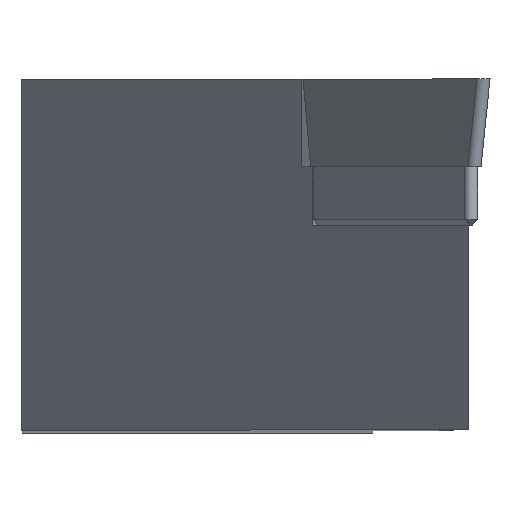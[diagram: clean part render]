
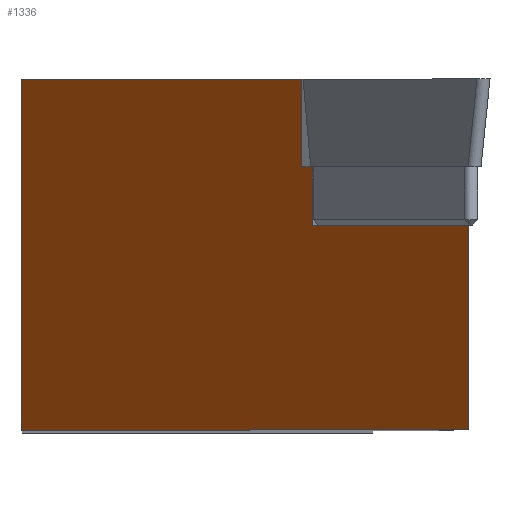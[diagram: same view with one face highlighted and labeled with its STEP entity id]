
A CAD part, top view. The second image highlights one B-rep face of the part: STEP entity #1336.
In plain terms, the highlighted planar face has unit normal (-0.788, 0, 0.616).
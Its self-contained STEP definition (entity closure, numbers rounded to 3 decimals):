
#4 = DIRECTION ( 'NONE',  ( 0.616, 0., 0.788 ) ) ;
#7 = CARTESIAN_POINT ( 'NONE',  ( 11.561, 1.585, -0.682 ) ) ;
#25 = LINE ( 'NONE', #1394, #435 ) ;
#37 = VERTEX_POINT ( 'NONE', #1094 ) ;
#40 = CARTESIAN_POINT ( 'NONE',  ( -3.865, 1.585, -20.427 ) ) ;
#41 = EDGE_CURVE ( 'NONE', #893, #442, #1432, .T. ) ;
#134 = DIRECTION ( 'NONE',  ( 0., -1., 0. ) ) ;
#155 = EDGE_CURVE ( 'NONE', #442, #558, #440, .T. ) ;
#172 = ORIENTED_EDGE ( 'NONE', *, *, #1166, .F. ) ;
#181 = VECTOR ( 'NONE', #134, 1000. ) ;
#186 = DIRECTION ( 'NONE',  ( 0.616, 0., 0.788 ) ) ;
#188 = ORIENTED_EDGE ( 'NONE', *, *, #155, .F. ) ;
#190 = CARTESIAN_POINT ( 'NONE',  ( 3.081, 4.765, -11.536 ) ) ;
#200 = VECTOR ( 'NONE', #1227, 1000. ) ;
#206 = CARTESIAN_POINT ( 'NONE',  ( -12.7, 9.525, -31.735 ) ) ;
#241 = LINE ( 'NONE', #494, #454 ) ;
#287 = CARTESIAN_POINT ( 'NONE',  ( -12.7, 9.525, -31.735 ) ) ;
#290 = CARTESIAN_POINT ( 'NONE',  ( -21.031, 12.505, -42.398 ) ) ;
#343 = EDGE_CURVE ( 'NONE', #893, #728, #1495, .T. ) ;
#353 = LINE ( 'NONE', #371, #393 ) ;
#359 = EDGE_CURVE ( 'NONE', #628, #366, #241, .T. ) ;
#364 = CARTESIAN_POINT ( 'NONE',  ( 3.081, 1.585, -11.536 ) ) ;
#366 = VERTEX_POINT ( 'NONE', #883 ) ;
#371 = CARTESIAN_POINT ( 'NONE',  ( -4.927, 4.765, -21.785 ) ) ;
#393 = VECTOR ( 'NONE', #1405, 1000. ) ;
#397 = CARTESIAN_POINT ( 'NONE',  ( 2.497, 19.325, -12.283 ) ) ;
#425 = ORIENTED_EDGE ( 'NONE', *, *, #343, .T. ) ;
#435 = VECTOR ( 'NONE', #724, 1000. ) ;
#440 = LINE ( 'NONE', #1505, #1034 ) ;
#442 = VERTEX_POINT ( 'NONE', #7 ) ;
#454 = VECTOR ( 'NONE', #1016, 1000. ) ;
#472 = EDGE_CURVE ( 'NONE', #366, #584, #913, .T. ) ;
#494 = CARTESIAN_POINT ( 'NONE',  ( -51.932, 9.525, -81.949 ) ) ;
#525 = ORIENTED_EDGE ( 'NONE', *, *, #41, .F. ) ;
#535 = LINE ( 'NONE', #206, #200 ) ;
#539 = VECTOR ( 'NONE', #186, 1000. ) ;
#542 = DIRECTION ( 'NONE',  ( -0.788, 0., 0.616 ) ) ;
#545 = ORIENTED_EDGE ( 'NONE', *, *, #472, .F. ) ;
#558 = VERTEX_POINT ( 'NONE', #656 ) ;
#584 = VERTEX_POINT ( 'NONE', #1176 ) ;
#628 = VERTEX_POINT ( 'NONE', #287 ) ;
#656 = CARTESIAN_POINT ( 'NONE',  ( 11.561, -9.525, -0.682 ) ) ;
#724 = DIRECTION ( 'NONE',  ( -0.616, 0., -0.788 ) ) ;
#728 = VERTEX_POINT ( 'NONE', #190 ) ;
#798 = VECTOR ( 'NONE', #1272, 1000. ) ;
#839 = EDGE_CURVE ( 'NONE', #37, #628, #535, .T. ) ;
#845 = EDGE_LOOP ( 'NONE', ( #1167, #188, #525, #425, #172, #545, #1437, #1668 ) ) ;
#883 = CARTESIAN_POINT ( 'NONE',  ( 2.497, 9.525, -12.283 ) ) ;
#893 = VERTEX_POINT ( 'NONE', #1253 ) ;
#913 = LINE ( 'NONE', #397, #181 ) ;
#1016 = DIRECTION ( 'NONE',  ( 0.616, 0., 0.788 ) ) ;
#1034 = VECTOR ( 'NONE', #1098, 1000. ) ;
#1039 = EDGE_CURVE ( 'NONE', #558, #37, #25, .T. ) ;
#1094 = CARTESIAN_POINT ( 'NONE',  ( -12.7, -9.525, -31.735 ) ) ;
#1098 = DIRECTION ( 'NONE',  ( 0., -1., 0. ) ) ;
#1166 = EDGE_CURVE ( 'NONE', #584, #728, #353, .T. ) ;
#1167 = ORIENTED_EDGE ( 'NONE', *, *, #1039, .F. ) ;
#1176 = CARTESIAN_POINT ( 'NONE',  ( 2.497, 4.765, -12.283 ) ) ;
#1227 = DIRECTION ( 'NONE',  ( 0., 1., 0. ) ) ;
#1253 = CARTESIAN_POINT ( 'NONE',  ( 3.081, 1.585, -11.536 ) ) ;
#1272 = DIRECTION ( 'NONE',  ( 0., 1., 0. ) ) ;
#1336 = ADVANCED_FACE ( 'NONE', ( #1389 ), #1560, .T. ) ;
#1381 = AXIS2_PLACEMENT_3D ( 'NONE', #290, #542, #4 ) ;
#1389 = FACE_OUTER_BOUND ( 'NONE', #845, .T. ) ;
#1394 = CARTESIAN_POINT ( 'NONE',  ( -21.031, -9.525, -42.398 ) ) ;
#1405 = DIRECTION ( 'NONE',  ( 0.616, 0., 0.788 ) ) ;
#1432 = LINE ( 'NONE', #40, #539 ) ;
#1437 = ORIENTED_EDGE ( 'NONE', *, *, #359, .F. ) ;
#1495 = LINE ( 'NONE', #364, #798 ) ;
#1505 = CARTESIAN_POINT ( 'NONE',  ( 11.561, 12.505, -0.682 ) ) ;
#1560 = PLANE ( 'NONE',  #1381 ) ;
#1668 = ORIENTED_EDGE ( 'NONE', *, *, #839, .F. ) ;
